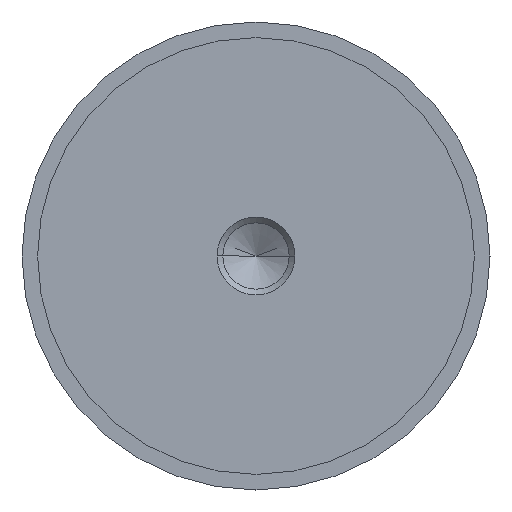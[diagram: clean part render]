
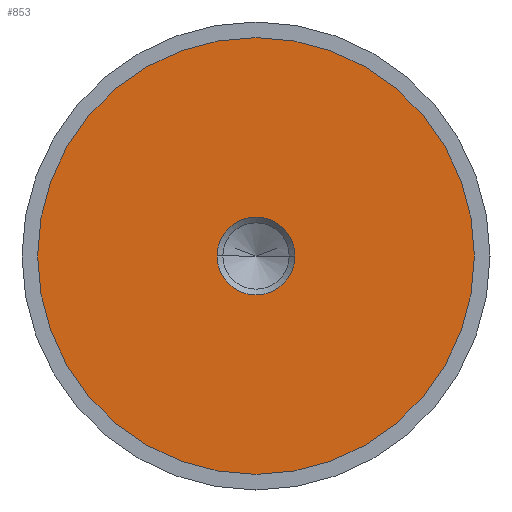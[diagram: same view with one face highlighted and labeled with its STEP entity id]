
A CAD part, left-side view. The second image highlights one B-rep face of the part: STEP entity #853.
In plain terms, the highlighted planar face has unit normal (-1, 0, 0).
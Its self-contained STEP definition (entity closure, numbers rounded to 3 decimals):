
#17 = EDGE_CURVE ( 'NONE', #446, #223, #210, .T. ) ;
#23 = AXIS2_PLACEMENT_3D ( 'NONE', #790, #861, #596 ) ;
#26 = PLANE ( 'NONE',  #663 ) ;
#79 = EDGE_LOOP ( 'NONE', ( #390, #824 ) ) ;
#91 = CARTESIAN_POINT ( 'NONE',  ( -14.99, 0., 28. ) ) ;
#162 = CARTESIAN_POINT ( 'NONE',  ( -14.99, -4.99, 0. ) ) ;
#171 = EDGE_CURVE ( 'NONE', #718, #838, #412, .T. ) ;
#204 = DIRECTION ( 'NONE',  ( 0., 0., 1. ) ) ;
#210 = CIRCLE ( 'NONE', #513, 4.99 ) ;
#223 = VERTEX_POINT ( 'NONE', #525 ) ;
#243 = FACE_OUTER_BOUND ( 'NONE', #79, .T. ) ;
#264 = DIRECTION ( 'NONE',  ( 0., 0., 1. ) ) ;
#390 = ORIENTED_EDGE ( 'NONE', *, *, #662, .T. ) ;
#393 = DIRECTION ( 'NONE',  ( 1., 0., 0. ) ) ;
#394 = DIRECTION ( 'NONE',  ( -1., 0., 0. ) ) ;
#412 = CIRCLE ( 'NONE', #783, 28. ) ;
#434 = DIRECTION ( 'NONE',  ( 0., 0., -1. ) ) ;
#437 = EDGE_LOOP ( 'NONE', ( #785, #534 ) ) ;
#446 = VERTEX_POINT ( 'NONE', #162 ) ;
#452 = CIRCLE ( 'NONE', #821, 28. ) ;
#474 = DIRECTION ( 'NONE',  ( 0., 0., -1. ) ) ;
#476 = CARTESIAN_POINT ( 'NONE',  ( -14.99, 0., 0. ) ) ;
#499 = CARTESIAN_POINT ( 'NONE',  ( -14.99, 28., 0. ) ) ;
#513 = AXIS2_PLACEMENT_3D ( 'NONE', #736, #393, #474 ) ;
#525 = CARTESIAN_POINT ( 'NONE',  ( -14.99, 4.99, 0. ) ) ;
#533 = EDGE_CURVE ( 'NONE', #223, #446, #866, .T. ) ;
#534 = ORIENTED_EDGE ( 'NONE', *, *, #533, .T. ) ;
#535 = DIRECTION ( 'NONE',  ( -1., 0., 0. ) ) ;
#596 = DIRECTION ( 'NONE',  ( 0., 0., -1. ) ) ;
#602 = CARTESIAN_POINT ( 'NONE',  ( -14.99, 0., 0. ) ) ;
#662 = EDGE_CURVE ( 'NONE', #838, #718, #452, .T. ) ;
#663 = AXIS2_PLACEMENT_3D ( 'NONE', #499, #769, #434 ) ;
#718 = VERTEX_POINT ( 'NONE', #885 ) ;
#736 = CARTESIAN_POINT ( 'NONE',  ( -14.99, 0., 0. ) ) ;
#769 = DIRECTION ( 'NONE',  ( 1., 0., 0. ) ) ;
#783 = AXIS2_PLACEMENT_3D ( 'NONE', #602, #394, #264 ) ;
#785 = ORIENTED_EDGE ( 'NONE', *, *, #17, .T. ) ;
#790 = CARTESIAN_POINT ( 'NONE',  ( -14.99, 0., 0. ) ) ;
#821 = AXIS2_PLACEMENT_3D ( 'NONE', #476, #535, #204 ) ;
#824 = ORIENTED_EDGE ( 'NONE', *, *, #171, .T. ) ;
#838 = VERTEX_POINT ( 'NONE', #91 ) ;
#844 = FACE_BOUND ( 'NONE', #437, .T. ) ;
#853 = ADVANCED_FACE ( 'NONE', ( #844, #243 ), #26, .F. ) ;
#861 = DIRECTION ( 'NONE',  ( 1., 0., 0. ) ) ;
#866 = CIRCLE ( 'NONE', #23, 4.99 ) ;
#885 = CARTESIAN_POINT ( 'NONE',  ( -14.99, 0., -28. ) ) ;
